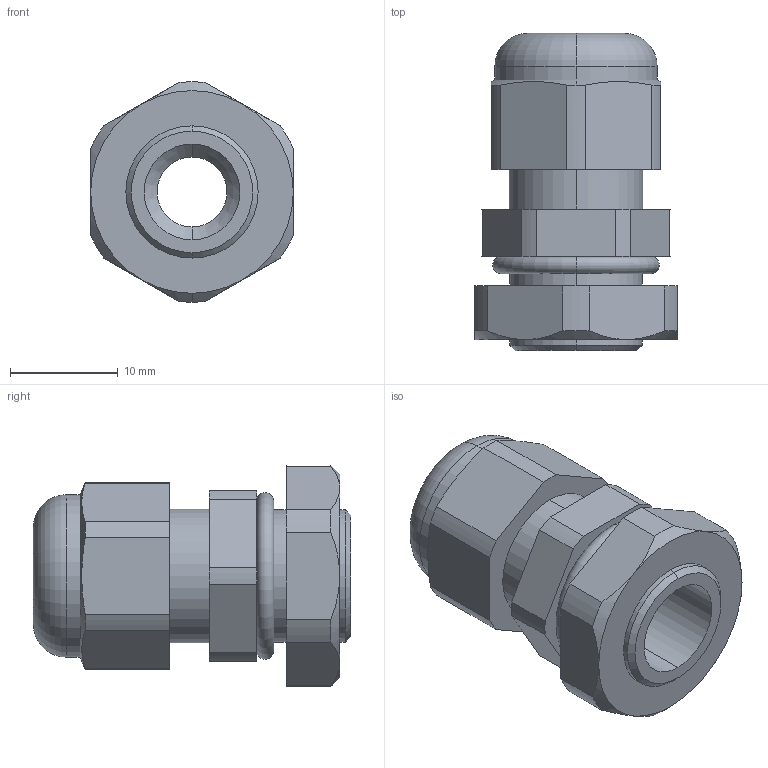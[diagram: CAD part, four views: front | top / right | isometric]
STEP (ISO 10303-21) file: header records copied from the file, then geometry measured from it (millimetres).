
FILE_DESCRIPTION (( 'STEP AP203' ), '1' );
FILE_NAME ('CH-PG7.STEP', '2018-02-07T14:41:50', ( '' ), ( '' ), 'SwSTEP 2.0', 'SolidWorks 2012', '' );
FILE_SCHEMA (( 'CONFIG_CONTROL_DESIGN' ));
Length unit declared in the file: millimetre
Products named in the file (1): CH-PG7
Bounding box: 18.85 x 29.5 x 20.49 mm (x, y, z)
Volume: 4408.8 mm3; surface area: 3125.4 mm2
Topology: 1 solids, 1 shells, 78 faces, 189 edges, 118 vertices
Faces by surface type: cylinder 34, plane 25, cone 15, torus 4
Entity records: 2434 total; most frequent: CARTESIAN_POINT 488, DIRECTION 415, ORIENTED_EDGE 378, EDGE_CURVE 189, AXIS2_PLACEMENT_3D 165, VERTEX_POINT 118, CIRCLE 86, VECTOR 85
